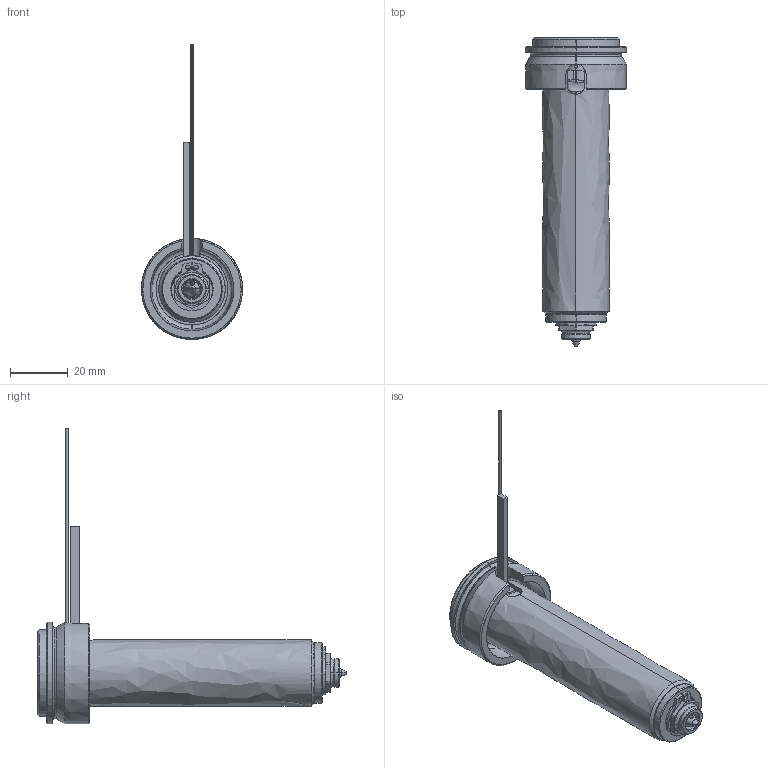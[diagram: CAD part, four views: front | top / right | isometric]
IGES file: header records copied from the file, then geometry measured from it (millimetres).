
Start section: SolidWorks IGES file using analytic representation for surfaces
Global section: file name: C:\Documents and Settings\ws-20\Desktop\TEM\UGEP3052-M-A-1 [Øf-0.90 ØC-6.0].IGS; native system: SolidWorks 2012; preprocessor: SolidWorks 2012; author: ws-20; date: 120402.112730; units: millimetre
Bounding box: 35 x 106.8 x 102.1 mm (x, y, z)
Surface area: 18215 mm2 (no closed solid volume)
Topology: 0 solids, 0 shells, 128 faces, 1840 edges, 1840 vertices
Faces by surface type: revolution 77, bspline 51
